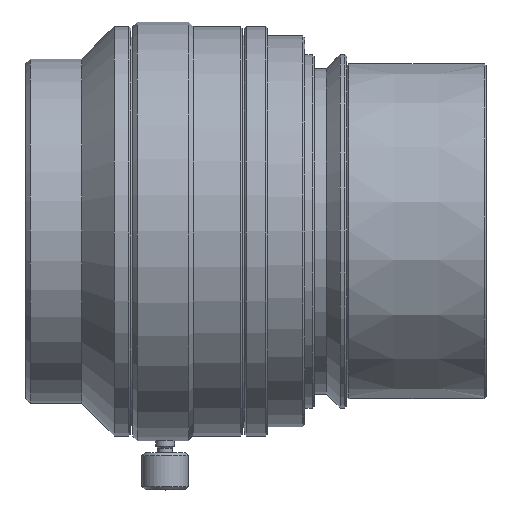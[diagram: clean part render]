
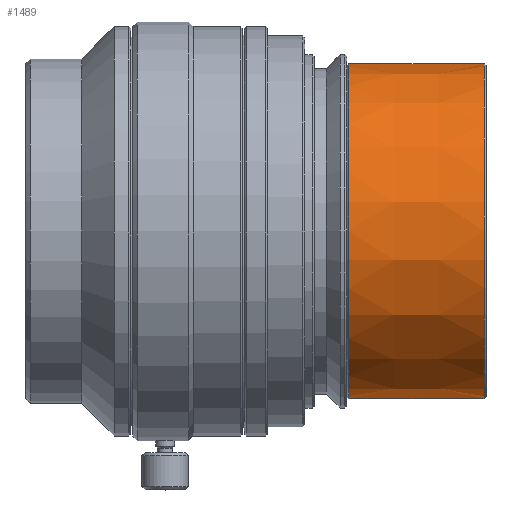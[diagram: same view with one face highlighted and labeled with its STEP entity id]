
A CAD part, top view. The second image highlights one B-rep face of the part: STEP entity #1489.
In plain terms, the highlighted conical face has half-angle 0 degrees and reference radius 18 mm.
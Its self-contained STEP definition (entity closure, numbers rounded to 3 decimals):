
#5 = CARTESIAN_POINT ( 'NONE',  ( 49.398, 18., 0. ) ) ;
#225 = ORIENTED_EDGE ( 'NONE', *, *, #603, .T. ) ;
#336 = VERTEX_POINT ( 'NONE', #1981 ) ;
#406 = LINE ( 'NONE', #2773, #1598 ) ;
#559 = CARTESIAN_POINT ( 'NONE',  ( 34.798, 0., 0. ) ) ;
#603 = EDGE_CURVE ( 'NONE', #3248, #1727, #1136, .T. ) ;
#650 = EDGE_LOOP ( 'NONE', ( #2729, #225, #1522, #831 ) ) ;
#757 = AXIS2_PLACEMENT_3D ( 'NONE', #789, #1305, #3065 ) ;
#789 = CARTESIAN_POINT ( 'NONE',  ( 49.398, 0., 0. ) ) ;
#814 = DIRECTION ( 'NONE',  ( 0., 1., 0. ) ) ;
#831 = ORIENTED_EDGE ( 'NONE', *, *, #1388, .F. ) ;
#1066 = VECTOR ( 'NONE', #2898, 1000. ) ;
#1127 = CARTESIAN_POINT ( 'NONE',  ( 49.398, -18., 0. ) ) ;
#1136 = LINE ( 'NONE', #1127, #1066 ) ;
#1191 = FACE_OUTER_BOUND ( 'NONE', #650, .T. ) ;
#1261 = CARTESIAN_POINT ( 'NONE',  ( 34.798, -18., 0. ) ) ;
#1305 = DIRECTION ( 'NONE',  ( 1., 0., 0. ) ) ;
#1311 = CARTESIAN_POINT ( 'NONE',  ( 49.398, 0., 0. ) ) ;
#1388 = EDGE_CURVE ( 'NONE', #336, #2865, #406, .T. ) ;
#1489 = ADVANCED_FACE ( 'NONE', ( #1191 ), #1792, .T. ) ;
#1519 = DIRECTION ( 'NONE',  ( 1., 0., 0. ) ) ;
#1522 = ORIENTED_EDGE ( 'NONE', *, *, #2635, .F. ) ;
#1561 = DIRECTION ( 'NONE',  ( 0., 1., 0. ) ) ;
#1598 = VECTOR ( 'NONE', #1519, 1000. ) ;
#1727 = VERTEX_POINT ( 'NONE', #2871 ) ;
#1792 = CONICAL_SURFACE ( 'NONE', #757, 18., 0. ) ;
#1981 = CARTESIAN_POINT ( 'NONE',  ( 34.798, 18., 0. ) ) ;
#2307 = AXIS2_PLACEMENT_3D ( 'NONE', #1311, #3074, #1561 ) ;
#2312 = CIRCLE ( 'NONE', #2584, 18. ) ;
#2323 = DIRECTION ( 'NONE',  ( 1., 0., 0. ) ) ;
#2515 = CIRCLE ( 'NONE', #2307, 18. ) ;
#2584 = AXIS2_PLACEMENT_3D ( 'NONE', #559, #2323, #814 ) ;
#2635 = EDGE_CURVE ( 'NONE', #2865, #1727, #2515, .T. ) ;
#2729 = ORIENTED_EDGE ( 'NONE', *, *, #2921, .T. ) ;
#2773 = CARTESIAN_POINT ( 'NONE',  ( 49.398, 18., 0. ) ) ;
#2865 = VERTEX_POINT ( 'NONE', #5 ) ;
#2871 = CARTESIAN_POINT ( 'NONE',  ( 49.398, -18., 0. ) ) ;
#2898 = DIRECTION ( 'NONE',  ( 1., 0., 0. ) ) ;
#2921 = EDGE_CURVE ( 'NONE', #336, #3248, #2312, .T. ) ;
#3065 = DIRECTION ( 'NONE',  ( 0., 1., 0. ) ) ;
#3074 = DIRECTION ( 'NONE',  ( 1., 0., 0. ) ) ;
#3248 = VERTEX_POINT ( 'NONE', #1261 ) ;
